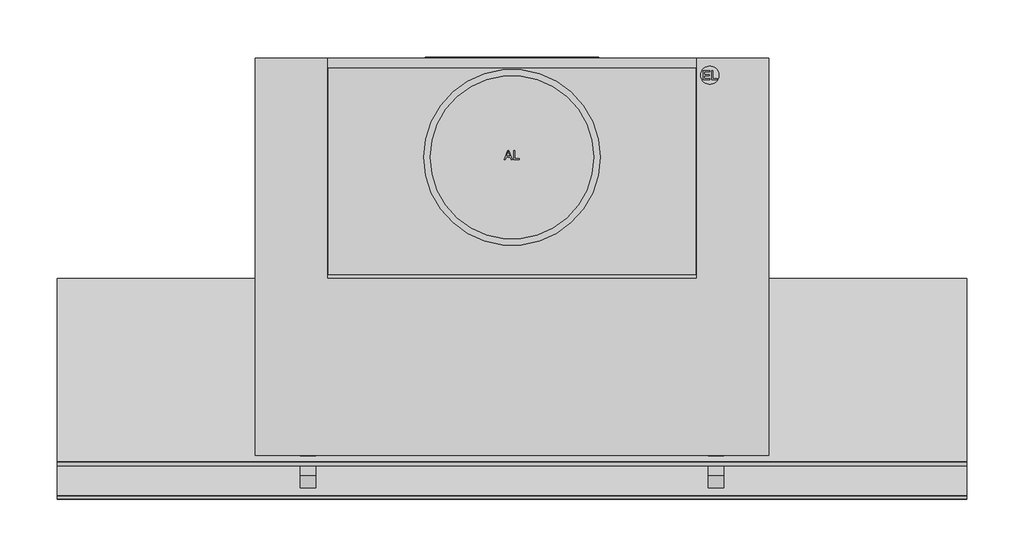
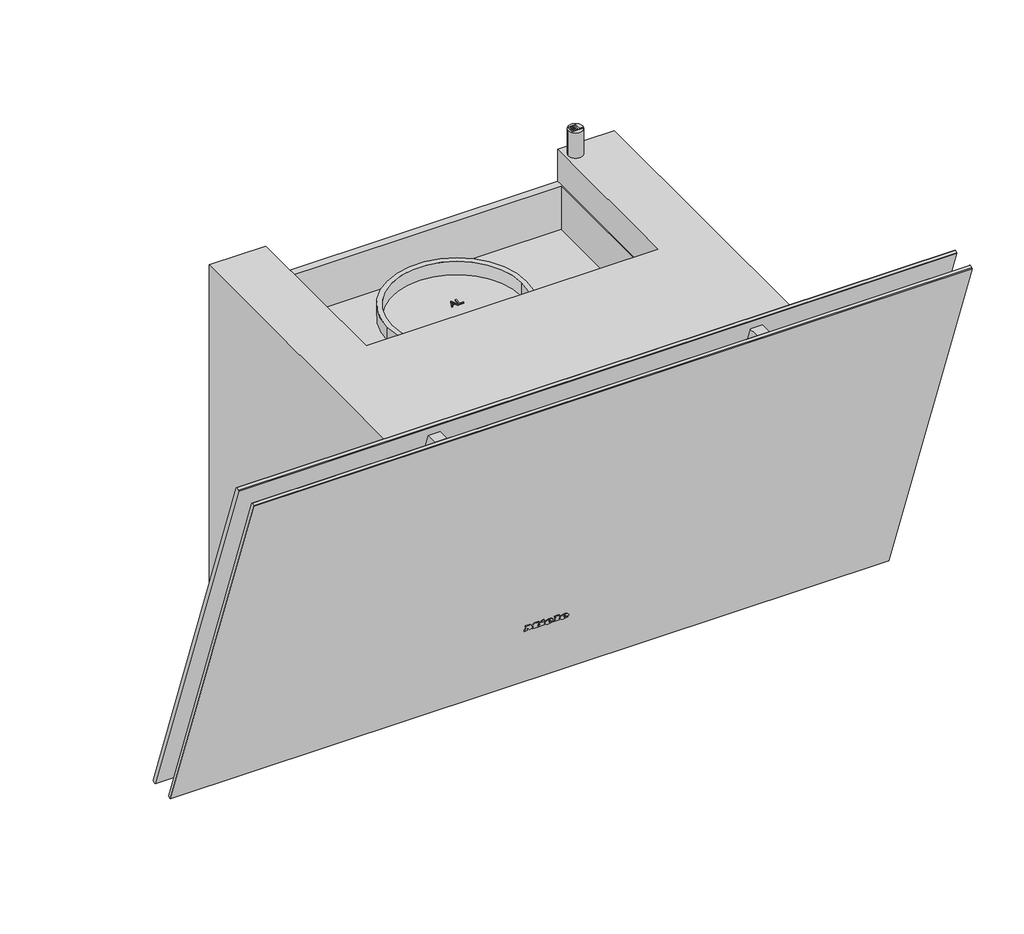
# Not in any storey: 1 proxy.
"""IFC4 building model written with IfcOpenShell, lengths in millimetres."""

import ifcopenshell
import ifcopenshell.guid

model = None  # the IFC model being written
_history = None  # IfcOwnerHistory: only IFC2X3 demands one
_inside = {}  # id of a spatial element -> (the spatial element, [elements in it])
_under = {}  # id of a project, library or spatial element -> (it, [spatial elements below it])
_declared = {}  # id of a project -> (the project, [libraries it declares])
_typed = {}  # id of a type object -> (the type object, [elements of that type])
_made_of = {}  # id of a material, layer set ... -> (it, [elements and type objects made of it])


def new_model(schema):
    """Start an empty IFC model of exactly this schema.

    Asked for "IFC4X3", IfcOpenShell would pick the latest addendum, in which some entities
    have other attributes; the version numbers below select the first issue.
    IFC2X3 requires an IfcOwnerHistory on every rooted entity: one is made here for all.
    """
    global model, _history
    if schema == "IFC4X3":
        model = ifcopenshell.file(schema_version=(4, 3, 0, 0))
    else:
        model = ifcopenshell.file(schema=schema)
    _inside.clear()
    _under.clear()
    _declared.clear()
    _typed.clear()
    _made_of.clear()
    _history = None
    if model.schema == "IFC2X3":
        org = make("IfcOrganization", Name="unknown")
        user = make(
            "IfcPersonAndOrganization",
            ThePerson=make("IfcPerson", FamilyName="unknown"),
            TheOrganization=org,
        )
        app = make(
            "IfcApplication",
            ApplicationDeveloper=org,
            Version="unknown",
            ApplicationFullName="unknown",
            ApplicationIdentifier="unknown",
        )
        _history = make(
            "IfcOwnerHistory",
            OwningUser=user,
            OwningApplication=app,
            ChangeAction="ADDED",
            CreationDate=0,
        )
    return model


def make(cls, **values):
    """One entity of the class cls with the attributes given. An attribute that is None is left unset."""
    return model.create_entity(
        cls, **{name: value for name, value in values.items() if value is not None}
    )


def rooted(cls, **values):
    """An entity with a GlobalId (a new one), such as an element, a storey or a relation."""
    return make(cls, GlobalId=ifcopenshell.guid.new(), OwnerHistory=_history, **values)


def si_unit(unit_type, name, prefix=None):
    """IfcSIUnit, for example si_unit("LENGTHUNIT", "METRE", prefix="MILLI")."""
    return make("IfcSIUnit", UnitType=unit_type, Prefix=prefix, Name=name)


def assignment(units):
    """IfcUnitAssignment: the units of a project."""
    return None if units is None else make("IfcUnitAssignment", Units=units)


def point(xyz):
    """IfcCartesianPoint."""
    return None if xyz is None else make("IfcCartesianPoint", Coordinates=xyz)


def direction(xyz):
    """IfcDirection."""
    return None if xyz is None else make("IfcDirection", DirectionRatios=xyz)


def frame(location, z_axis=None, x_axis=None):
    """IfcAxis2Placement3D, a coordinate frame: its origin and axes. An axis left out is left unset."""
    return make(
        "IfcAxis2Placement3D",
        Location=point(location),
        Axis=direction(z_axis),
        RefDirection=direction(x_axis),
    )


def frame_2d(location, x_axis=None):
    """IfcAxis2Placement2D, a coordinate frame in the plane: its origin and x axis."""
    return make(
        "IfcAxis2Placement2D", Location=point(location), RefDirection=direction(x_axis)
    )


def origin():
    """The frame at (0, 0, 0) with its axes left unset."""
    return frame((0.0, 0.0, 0.0))


def origin_with_axes():
    """The frame at (0, 0, 0) with the z axis (0, 0, 1) and the x axis (1, 0, 0) written out."""
    return frame((0.0, 0.0, 0.0), z_axis=(0.0, 0.0, 1.0), x_axis=(1.0, 0.0, 0.0))


def place(relative_to, where):
    """IfcLocalPlacement: puts the frame where relative to a parent placement (None: the world)."""
    return make(
        "IfcLocalPlacement", PlacementRelTo=relative_to, RelativePlacement=where
    )


def context(
    kind, dimensions, precision=None, world=None, true_north=None, identifier=None
):
    """IfcGeometricRepresentationContext, for example the 3D "Model" context."""
    return make(
        "IfcGeometricRepresentationContext",
        ContextIdentifier=identifier,
        ContextType=kind,
        CoordinateSpaceDimension=dimensions,
        Precision=precision,
        WorldCoordinateSystem=world,
        TrueNorth=true_north,
    )


def project(units=None, contexts=None):
    """IfcProject with its units and contexts."""
    return rooted(
        "IfcProject",
        Name="project",
        RepresentationContexts=contexts,
        UnitsInContext=assignment(units),
    )


def spatial(cls, under=None, at=None, **own):
    """A site, building, storey or space (cls), placed at a placement, below another one or the project."""
    s = rooted(cls, ObjectPlacement=at, **own)
    if under is not None:
        _under.setdefault(under.id(), (under, []))[1].append(s)
    return s


def polyline(points):
    """IfcPolyline through the points."""
    return make("IfcPolyline", Points=[point(p) for p in points])


def circle_curve(where, radius):
    """IfcCircle in the frame where."""
    return make("IfcCircle", Position=where, Radius=radius)


def ellipse_curve(where, semi_axis1, semi_axis2):
    """IfcEllipse in the frame where."""
    return make(
        "IfcEllipse", Position=where, SemiAxis1=semi_axis1, SemiAxis2=semi_axis2
    )


def trimmed(basis, trim1, trim2, sense, master):
    """IfcTrimmedCurve: the piece of a basis curve between two trims."""
    return make(
        "IfcTrimmedCurve",
        BasisCurve=basis,
        Trim1=trim1,
        Trim2=trim2,
        SenseAgreement=sense,
        MasterRepresentation=master,
    )


def segment(curve, same_sense, transition):
    """IfcCompositeCurveSegment."""
    return make(
        "IfcCompositeCurveSegment",
        Transition=transition,
        SameSense=same_sense,
        ParentCurve=curve,
    )


def composite_curve(segments, self_intersect=None):
    """IfcCompositeCurve: segments joined end to end."""
    return make("IfcCompositeCurve", Segments=segments, SelfIntersect=self_intersect)


def outline(outer, holes=None, kind="AREA"):
    """IfcArbitraryClosedProfileDef: a profile drawn as a closed curve; with holes, ...WithVoids."""
    if holes is None:
        return make("IfcArbitraryClosedProfileDef", ProfileType=kind, OuterCurve=outer)
    return make(
        "IfcArbitraryProfileDefWithVoids",
        ProfileType=kind,
        OuterCurve=outer,
        InnerCurves=holes,
    )


def extrude(swept, where, along, depth):
    """IfcExtrudedAreaSolid: the profile swept, set in the frame where, extruded along a direction by depth."""
    return make(
        "IfcExtrudedAreaSolid",
        SweptArea=swept,
        Position=where,
        ExtrudedDirection=direction(along),
        Depth=depth,
    )


def faces_of(points, faces, orient=None, outer=None):
    """IfcFace entities. A face is a list of loops; a loop is a list of indices into points, from 0.

    orient and outer hold one flag for each loop. By default every Orientation is true, the
    first loop of a face is its IfcFaceOuterBound and the others are IfcFaceBound.
    """
    made = []
    for i, loops in enumerate(faces):
        bounds = []
        for j, loop in enumerate(loops):
            is_outer = j == 0 if outer is None else outer[i][j]
            bounds.append(
                make(
                    "IfcFaceOuterBound" if is_outer else "IfcFaceBound",
                    Bound=make("IfcPolyLoop", Polygon=[points[k] for k in loop]),
                    Orientation=True if orient is None else orient[i][j],
                )
            )
        made.append(make("IfcFace", Bounds=bounds))
    return made


def faceted_brep(points, faces, orient=None, outer=None, voids=None):
    """IfcFacetedBrep: a solid bounded by flat faces; with voids (closed shells), ...WithVoids."""
    shared = [point(p) for p in points]
    hull = make("IfcClosedShell", CfsFaces=faces_of(shared, faces, orient, outer))
    if voids is None:
        return make("IfcFacetedBrep", Outer=hull)
    return make(
        "IfcFacetedBrepWithVoids",
        Outer=hull,
        Voids=[
            make(cls, CfsFaces=faces_of(shared, fs, o, b)) for cls, fs, o, b in voids
        ],
    )


def shape(context_of_items, identifier, shape_type, items):
    """IfcShapeRepresentation: the items that make up one representation, for example the "Body"."""
    return make(
        "IfcShapeRepresentation",
        ContextOfItems=context_of_items,
        RepresentationIdentifier=identifier,
        RepresentationType=shape_type,
        Items=items,
    )


def source(mapping_origin, context_of_items, identifier, shape_type, items):
    """IfcRepresentationMap: a shape defined once, which mapped items show again and again."""
    return make(
        "IfcRepresentationMap",
        MappingOrigin=mapping_origin,
        MappedRepresentation=shape(context_of_items, identifier, shape_type, items),
    )


def transform(
    local_origin,
    x_axis=None,
    y_axis=None,
    z_axis=None,
    scale=None,
    scale2=None,
    scale3=None,
    uniform=True,
):
    """IfcCartesianTransformationOperator3D, or its non-uniform kind. x_axis, y_axis, z_axis: its Axis1, 2, 3."""
    if uniform:
        return make(
            "IfcCartesianTransformationOperator3D",
            Axis1=direction(x_axis),
            Axis2=direction(y_axis),
            LocalOrigin=point(local_origin),
            Scale=scale,
            Axis3=direction(z_axis),
        )
    return make(
        "IfcCartesianTransformationOperator3DnonUniform",
        Axis1=direction(x_axis),
        Axis2=direction(y_axis),
        LocalOrigin=point(local_origin),
        Scale=scale,
        Axis3=direction(z_axis),
        Scale2=scale2,
        Scale3=scale3,
    )


def mapped(mapping_source, mapping_target):
    """IfcMappedItem: shows the shape of a source again, moved by a transform."""
    return make(
        "IfcMappedItem", MappingSource=mapping_source, MappingTarget=mapping_target
    )


def made_of(thing, what):
    """Note that an element or type object is made of a material, layer set ...; save() writes the relation."""
    if what is not None:
        _made_of.setdefault(what.id(), (what, []))[1].append(thing)
    return thing


def element(
    cls,
    number,
    at=None,
    inside=None,
    cuts=None,
    type_object=None,
    material=None,
    context=None,
    identifier="Body",
    shape_type=None,
    held_by="IfcProductDefinitionShape",
    body=None,
    shapes=None,
    **own,
):
    """One element of the class cls, such as IfcWall. Its Tag is "e" and its number.

    at: its placement. inside: the storey or other place that contains it. cuts: it is an
    opening in that element (IfcRelVoidsElement). A single representation is given by context,
    identifier, shape_type and body (its items); several are given by shapes. held_by: the class
    of the entity that holds the representations. save() writes the other relations.
    """
    e = rooted(cls, Tag="e%d" % number, ObjectPlacement=at, **own)
    if body is not None:
        shapes = [shape(context, identifier, shape_type, body)]
    if shapes is not None:
        e.Representation = make(held_by, Representations=shapes)
    if inside is not None:
        _inside.setdefault(inside.id(), (inside, []))[1].append(e)
    if cuts is not None:
        rooted(
            "IfcRelVoidsElement", RelatingBuildingElement=cuts, RelatedOpeningElement=e
        )
    if type_object is not None:
        _typed.setdefault(type_object.id(), (type_object, []))[1].append(e)
    return made_of(e, material)


def aggregate(whole, parts):
    """IfcRelAggregates: a whole, such as a stair, and the parts it consists of."""
    return rooted("IfcRelAggregates", RelatingObject=whole, RelatedObjects=parts)


def save(model, path):
    """Write the relations noted so far, then the file.

    IfcRelAggregates (storeys below a building ...), IfcRelContainedInSpatialStructure (elements
    in a storey), IfcRelDefinesByType, IfcRelAssociatesMaterial and IfcRelDeclares: one each for
    every whole, place, type object, material and project.
    """
    for whole, parts in _under.values():
        aggregate(whole, parts)
    for where, things in _inside.values():
        rooted(
            "IfcRelContainedInSpatialStructure",
            RelatedElements=things,
            RelatingStructure=where,
        )
    for kind, things in _typed.values():
        rooted("IfcRelDefinesByType", RelatedObjects=things, RelatingType=kind)
    for what, things in _made_of.values():
        rooted("IfcRelAssociatesMaterial", RelatedObjects=things, RelatingMaterial=what)
    for by, libraries in _declared.values():
        rooted("IfcRelDeclares", RelatingContext=by, RelatedDefinitions=libraries)
    model.write(path)


def plane_surface(at):
    """IfcPlane: the flat surface through the origin of the frame at, square to its z axis."""
    return make("IfcPlane", Position=at)


def cylinder_surface(at, radius):
    """IfcCylindricalSurface: all points at the distance radius from the z axis of the frame at."""
    return make("IfcCylindricalSurface", Position=at, Radius=radius)


def revolved_surface(curve, axis_point, axis_direction):
    """IfcSurfaceOfRevolution: the curve turned about the line through axis_point along axis_direction."""
    return make(
        "IfcSurfaceOfRevolution",
        SweptCurve=make("IfcArbitraryOpenProfileDef", ProfileType="CURVE", Curve=curve),
        AxisPosition=make("IfcAxis1Placement", Location=point(axis_point), Axis=direction(axis_direction)),
    )


def extruded_surface(curve, direction_of_extrusion, depth):
    """IfcSurfaceOfLinearExtrusion: the curve pushed along a direction by depth."""
    return make(
        "IfcSurfaceOfLinearExtrusion",
        SweptCurve=make("IfcArbitraryOpenProfileDef", ProfileType="CURVE", Curve=curve),
        ExtrudedDirection=direction(direction_of_extrusion),
        Depth=depth,
    )


def advanced_brep(points, edges, surfaces, faces):
    """IfcAdvancedBrep: a solid bounded by faces that lie on surfaces and meet in shared edges.

    An edge is (start, end): straight between two places in points (the first is 0);
    or (start, end, curve); or (start, end, curve, False) where it runs against its curve.
    A face is (place in surfaces, loops), or (place, loops, False) where it looks against
    its surface's normal. A loop lists edges by number (the first is 1), with a minus sign
    where the edge is run from its end to its start. The first loop is the outer one.
    """
    corners = [point(p) for p in points]
    vertices = [make("IfcVertexPoint", VertexGeometry=c) for c in corners]
    made = []
    for start, end, *more in edges:
        made.append(
            make(
                "IfcEdgeCurve",
                EdgeStart=vertices[start],
                EdgeEnd=vertices[end],
                EdgeGeometry=more[0] if more else make("IfcPolyline", Points=[corners[start], corners[end]]),
                SameSense=more[1] if len(more) > 1 else True,
            )
        )
    hull = []
    for where, loops, *sense in faces:
        bounds = []
        for j, loop in enumerate(loops):
            ring = [make("IfcOrientedEdge", EdgeElement=made[abs(k) - 1], Orientation=k > 0) for k in loop]
            bounds.append(
                make(
                    "IfcFaceOuterBound" if j == 0 else "IfcFaceBound",
                    Bound=make("IfcEdgeLoop", EdgeList=ring),
                    Orientation=True,
                )
            )
        hull.append(make("IfcAdvancedFace", Bounds=bounds, FaceSurface=surfaces[where], SameSense=sense[0] if sense else True))
    return make("IfcAdvancedBrep", Outer=make("IfcClosedShell", CfsFaces=hull))


def specialty_equipment_5b4391ac(model_context):
    return source(origin(), model_context, "Body", "SolidModel", [
        extrude(outline(polyline([(0.0, 0.0), (0.968, 0.0), (0.968, 5.352), (0.0, 5.352), (0.0, 6.696), (3.52, 6.696), (3.52, 5.352), (2.56, 5.352), (2.56, 1.9488753), (6.136, 6.696), (9.728, 1.8807777), (9.728, 5.352), (8.744, 5.352), (8.744, 6.696), (15.128, 6.696), (15.128, 5.352), (14.112, 5.352), (14.112, 0.0), (15.128, 0.0), (15.128, -1.304), (10.256, -1.304), (7.92, 1.696), (5.576, -1.304), (0.0, -1.304), (0.0, 0.0)])), frame((-24.271984, -261.1380975, 82.2921818), z_axis=(0.0, 0.9396926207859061, 0.34202014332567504), x_axis=(1.0, 0.0, 0.0)), (0.0, 0.0, 1.0), 1.0),
        extrude(outline(polyline([(0.0, 0.0), (0.96, 0.0), (0.96, 5.352), (0.0, 5.352), (0.0, 6.696), (6.488, 6.696), (6.488, 5.352), (5.504, 5.352), (5.504, -1.304), (0.0, -1.304), (0.0, 0.0)])), frame((8.192016, -261.1380975, 82.2921818), z_axis=(0.0, 0.9396926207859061, 0.34202014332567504), x_axis=(1.0, 0.0, 0.0)), (0.0, 0.0, 1.0), 1.0),
        extrude(outline(polyline([(0.0, 0.0), (1.4315306, 0.0), (1.4390414, -2.9920869), (0.0109086, -2.9993294), (0.0, 0.0)])), frame((-6.351984, -261.4226582, 83.074006), z_axis=(0.0, 0.9396926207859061, 0.342020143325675), x_axis=(0.42472021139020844, 0.30963927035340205, -0.8507269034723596)), (0.0, 0.0, 1.0), 1.0),
        extrude(outline(polyline([(0.4933907, 2.4141097), (1.7898156, 3.022309), (2.1941493, 2.1604399), (5.1636141, 3.5535222), (4.7592805, 4.4153913), (5.9760369, 4.9862153), (8.6568708, -0.728194), (7.4401145, -1.299018), (7.0459741, -0.4588767), (2.7800843, -2.4601583), (0.4933907, 2.4141097)])), frame((-6.351984, -261.4226582, 83.074006), z_axis=(0.0, 0.9396926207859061, 0.342020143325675), x_axis=(0.42472021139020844, 0.30963927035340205, -0.8507269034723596)), (0.0, 0.0, 1.0), 1.0),
        advanced_brep(
        [(2.392016, -259.4964008, 77.7816572), (2.392016, -259.7727531, 78.5409288), (7.744016, -259.7727531, 78.5409288), (-1.567984, -259.7727531, 78.5409288), (0.632016, -258.8479306, 76.0), (7.608016, -259.4964008, 77.7816572), (5.192016, -259.4964008, 77.7816572), (3.288016, -259.1899507, 76.9396926), (2.392016, -260.1229817, 79.5031741), (2.392016, -260.4212233, 80.3225861), (3.760016, -260.4212233, 80.3225861), (3.760016, -260.1229817, 79.5031741), (2.392016, -258.5567082, 78.1236774), (3.288016, -258.2502581, 77.2817128), (5.192016, -258.5567082, 78.1236774), (7.608016, -258.5567082, 78.1236774), (0.632016, -257.908238, 76.3420201), (-1.567984, -258.8330604, 78.882949), (7.744016, -258.8330604, 78.882949), (2.392016, -258.8330604, 78.882949), (2.392016, -259.1832891, 79.8451942), (3.760016, -259.1832891, 79.8451942), (3.760016, -259.4815306, 80.6646062), (2.392016, -259.4815306, 80.6646062)],
        [
            (0, 1),
            (1, 2),
            (2, 3, ellipse_curve(frame((3.088016, -259.7727531, 78.5409288), z_axis=(0.0, -0.9396926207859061, -0.34202014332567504), x_axis=(-1.0, 0.0, 0.0)), 4.656, 3.848)),
            (3, 4, circle_curve(frame((1.5280596, -259.8657825, 78.7965252), z_axis=(0.0, -0.9396926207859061, -0.34202014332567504), x_axis=(0.0, 0.34202014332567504, -0.9396926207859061)), 3.1079688)),
            (4, 5, circle_curve(frame((2.9948096, -260.5881291, 80.7811561), z_axis=(0.0, -0.9396926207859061, -0.34202014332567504), x_axis=(0.0, 0.34202014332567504, -0.9396926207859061)), 5.6098607)),
            (5, 6),
            (6, 7, circle_curve(frame((3.6790748, -259.7508638, 78.4807885), z_axis=(0.0, 0.9396926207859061, 0.34202014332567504), x_axis=(0.0, 0.34202014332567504, -0.9396926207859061)), 1.6859795)),
            (7, 0, circle_curve(frame((3.288016, -259.4964008, 77.7816572), z_axis=(0.0, 0.9396926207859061, 0.34202014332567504), x_axis=(0.0, 0.34202014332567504, -0.9396926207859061)), 0.896)),
            (8, 9),
            (9, 10, circle_curve(frame((3.076016, -260.4212233, 80.3225861), z_axis=(0.0, 0.9396926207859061, 0.34202014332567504), x_axis=(0.0, 0.34202014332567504, -0.9396926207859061)), 0.684)),
            (10, 11),
            (11, 8),
            (12, 13, circle_curve(frame((3.288016, -258.5567082, 78.1236774), z_axis=(0.0, -0.9396926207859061, -0.34202014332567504), x_axis=(0.0, 0.34202014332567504, -0.9396926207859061)), 0.896)),
            (13, 14, circle_curve(frame((3.6790748, -258.8111712, 78.8228087), z_axis=(0.0, -0.9396926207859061, -0.34202014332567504), x_axis=(0.0, 0.34202014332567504, -0.9396926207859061)), 1.6859795)),
            (14, 15),
            (15, 16, circle_curve(frame((2.9948096, -259.6484365, 81.1231762), z_axis=(0.0, 0.9396926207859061, 0.34202014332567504), x_axis=(0.0, 0.34202014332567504, -0.9396926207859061)), 5.6098607)),
            (16, 17, circle_curve(frame((1.5280596, -258.9260899, 79.1385454), z_axis=(0.0, 0.9396926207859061, 0.34202014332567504), x_axis=(0.0, 0.34202014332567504, -0.9396926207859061)), 3.1079688)),
            (17, 18, ellipse_curve(frame((3.088016, -258.8330604, 78.882949), z_axis=(0.0, 0.9396926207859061, 0.34202014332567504), x_axis=(-1.0, 0.0, 0.0)), 4.656, 3.848)),
            (18, 19),
            (19, 12),
            (20, 21),
            (21, 22),
            (22, 23, circle_curve(frame((3.076016, -259.4815306, 80.6646062), z_axis=(0.0, -0.9396926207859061, -0.34202014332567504), x_axis=(0.0, 0.34202014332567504, -0.9396926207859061)), 0.684)),
            (23, 20),
            (0, 12),
            (19, 1),
            (18, 2),
            (5, 15),
            (14, 6),
            (17, 3),
            (13, 7),
            (16, 4),
            (8, 20),
            (23, 9),
            (22, 10),
            (21, 11),
        ],
        [
            plane_surface(frame((2.392016, -259.7727531, 78.5409288), z_axis=(0.0, -0.9396926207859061, -0.34202014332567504), x_axis=(0.0, -0.34202014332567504, 0.9396926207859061))),
            plane_surface(frame((2.392016, -258.8330604, 78.882949), z_axis=(0.0, 0.9396926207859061, 0.34202014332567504), x_axis=(0.0, 0.34202014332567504, -0.9396926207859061))),
            plane_surface(frame((2.392016, -259.4964008, 77.7816572), z_axis=(1.0, 0.0, 0.0), x_axis=(0.0, 0.9396926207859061, 0.34202014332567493))),
            plane_surface(frame((2.392016, -259.7727531, 78.5409288), z_axis=(0.0, 0.34202014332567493, -0.9396926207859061), x_axis=(0.0, 0.9396926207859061, 0.34202014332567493))),
            plane_surface(frame((7.608016, -259.4964008, 77.7816572), z_axis=(0.0, -0.34202014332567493, 0.9396926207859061), x_axis=(0.0, 0.9396926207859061, 0.34202014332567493))),
            extruded_surface(trimmed(ellipse_curve(frame((3.088016, -257.8933678, 79.2249691), z_axis=(0.0, -0.9396926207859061, -0.34202014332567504), x_axis=(-1.0, 0.0, 0.0)), 4.656, 3.848), [point((7.744016, -257.8933678, 79.2249691))], [point((-1.567984, -257.8933678, 79.2249691))], True, "CARTESIAN"), (0.0, -0.9396926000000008, -0.34202009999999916), 0.9999999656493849),
            revolved_surface(polyline([(3.6790748, -258.2345321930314, 77.23850622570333), (3.6790748, -259.1742248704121, 76.89648606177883)]), (3.6790748, -258.8111712, 78.8228087), (0.0, 0.9396926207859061, 0.34202014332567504)),
            revolved_surface(polyline([(3.288016, -258.25025810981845, 77.28171282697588), (3.288016, -259.1899507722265, 76.93969266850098)]), (3.288016, -258.5567082, 78.1236774), (0.0, 0.9396926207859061, 0.34202014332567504)),
            cylinder_surface(frame((1.5280596, -258.9260899, 79.1385454), z_axis=(0.0, -0.9396926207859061, -0.34202014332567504), x_axis=(0.0, 0.34202014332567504, -0.9396926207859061)), 3.1079688),
            cylinder_surface(frame((2.9948096, -259.6484365, 81.1231762), z_axis=(0.0, -0.9396926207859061, -0.34202014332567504), x_axis=(0.0, 0.34202014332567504, -0.9396926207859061)), 5.6098607),
            plane_surface(frame((2.392016, -260.1229817, 79.5031741), z_axis=(1.0, 0.0, 0.0), x_axis=(0.0, 0.9396926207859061, 0.34202014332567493))),
            revolved_surface(polyline([(3.076016, -259.2475888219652, 80.02185644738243), (3.076016, -260.1872814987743, 79.67983628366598)]), (3.076016, -259.4815306, 80.6646062), (0.0, 0.9396926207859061, 0.34202014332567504)),
            plane_surface(frame((3.760016, -260.4212233, 80.3225861), z_axis=(-1.0, 0.0, 0.0), x_axis=(0.0, 0.9396926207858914, 0.3420201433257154))),
            plane_surface(frame((3.760016, -260.1229817, 79.5031741), z_axis=(0.0, -0.34202014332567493, 0.9396926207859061), x_axis=(0.0, 0.9396926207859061, 0.34202014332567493))),
        ],
        [
            (0, [[1, 2, 3, 4, 5, 6, 7, 8], [9, 10, 11, 12]]),
            (1, [[13, 14, 15, 16, 17, 18, 19, 20], [21, 22, 23, 24]]),
            (2, [[-1, 25, -20, 26]]),
            (3, [[-2, -26, -19, 27]]),
            (4, [[-6, 28, -15, 29]]),
            (5, [[-3, -27, -18, 30]]),
            (6, [[-7, -29, -14, 31]]),
            (7, [[-8, -31, -13, -25]]),
            (8, [[-4, -30, -17, 32]]),
            (9, [[-5, -32, -16, -28]]),
            (10, [[-9, 33, -24, 34]]),
            (11, [[-10, -34, -23, 35]]),
            (12, [[-11, -35, -22, 36]]),
            (13, [[-12, -36, -21, -33]]),
        ],
    ),
        advanced_brep(
        [(19.088016, -259.4964008, 77.7816572), (19.088016, -259.7727531, 78.5409288), (24.440016, -259.7727531, 78.5409288), (15.128016, -259.7727531, 78.5409288), (17.328016, -258.8479306, 76.0), (24.304016, -259.4964008, 77.7816572), (21.888016, -259.4964008, 77.7816572), (19.984016, -259.1899507, 76.9396926), (19.088016, -260.1229817, 79.5031741), (19.088016, -260.4212233, 80.3225861), (20.456016, -260.4212233, 80.3225861), (20.456016, -260.1229817, 79.5031741), (19.088016, -258.5567082, 78.1236774), (19.984016, -258.2502581, 77.2817128), (21.888016, -258.5567082, 78.1236774), (24.304016, -258.5567082, 78.1236774), (17.328016, -257.908238, 76.3420201), (15.128016, -258.8330604, 78.882949), (24.440016, -258.8330604, 78.882949), (19.088016, -258.8330604, 78.882949), (19.088016, -259.1832891, 79.8451942), (20.456016, -259.1832891, 79.8451942), (20.456016, -259.4815306, 80.6646062), (19.088016, -259.4815306, 80.6646062)],
        [
            (0, 1),
            (1, 2),
            (2, 3, ellipse_curve(frame((19.784016, -259.7727531, 78.5409288), z_axis=(0.0, -0.9396926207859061, -0.34202014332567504), x_axis=(-1.0, 0.0, 0.0)), 4.656, 3.848)),
            (3, 4, circle_curve(frame((18.2240596, -259.8657825, 78.7965252), z_axis=(0.0, -0.9396926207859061, -0.34202014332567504), x_axis=(0.0, 0.34202014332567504, -0.9396926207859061)), 3.1079688)),
            (4, 5, circle_curve(frame((19.6908096, -260.5881291, 80.7811561), z_axis=(0.0, -0.9396926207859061, -0.34202014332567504), x_axis=(0.0, 0.34202014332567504, -0.9396926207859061)), 5.6098607)),
            (5, 6),
            (6, 7, circle_curve(frame((20.3750748, -259.7508638, 78.4807885), z_axis=(0.0, 0.9396926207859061, 0.34202014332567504), x_axis=(0.0, 0.34202014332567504, -0.9396926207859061)), 1.6859795)),
            (7, 0, circle_curve(frame((19.984016, -259.4964008, 77.7816572), z_axis=(0.0, 0.9396926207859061, 0.34202014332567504), x_axis=(0.0, 0.34202014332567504, -0.9396926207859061)), 0.896)),
            (8, 9),
            (9, 10, circle_curve(frame((19.772016, -260.4212233, 80.3225861), z_axis=(0.0, 0.9396926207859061, 0.34202014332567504), x_axis=(0.0, 0.34202014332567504, -0.9396926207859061)), 0.684)),
            (10, 11),
            (11, 8),
            (12, 13, circle_curve(frame((19.984016, -258.5567082, 78.1236774), z_axis=(0.0, -0.9396926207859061, -0.34202014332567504), x_axis=(0.0, 0.34202014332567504, -0.9396926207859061)), 0.896)),
            (13, 14, circle_curve(frame((20.3750748, -258.8111712, 78.8228087), z_axis=(0.0, -0.9396926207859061, -0.34202014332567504), x_axis=(0.0, 0.34202014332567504, -0.9396926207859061)), 1.6859795)),
            (14, 15),
            (15, 16, circle_curve(frame((19.6908096, -259.6484365, 81.1231762), z_axis=(0.0, 0.9396926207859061, 0.34202014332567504), x_axis=(0.0, 0.34202014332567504, -0.9396926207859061)), 5.6098607)),
            (16, 17, circle_curve(frame((18.2240596, -258.9260899, 79.1385454), z_axis=(0.0, 0.9396926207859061, 0.34202014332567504), x_axis=(0.0, 0.34202014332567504, -0.9396926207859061)), 3.1079688)),
            (17, 18, ellipse_curve(frame((19.784016, -258.8330604, 78.882949), z_axis=(0.0, 0.9396926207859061, 0.34202014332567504), x_axis=(-1.0, 0.0, 0.0)), 4.656, 3.848)),
            (18, 19),
            (19, 12),
            (20, 21),
            (21, 22),
            (22, 23, circle_curve(frame((19.772016, -259.4815306, 80.6646062), z_axis=(0.0, -0.9396926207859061, -0.34202014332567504), x_axis=(0.0, 0.34202014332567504, -0.9396926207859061)), 0.684)),
            (23, 20),
            (0, 12),
            (19, 1),
            (18, 2),
            (5, 15),
            (14, 6),
            (17, 3),
            (13, 7),
            (16, 4),
            (8, 20),
            (23, 9),
            (22, 10),
            (21, 11),
        ],
        [
            plane_surface(frame((19.088016, -259.7727531, 78.5409288), z_axis=(0.0, -0.9396926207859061, -0.34202014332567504), x_axis=(0.0, -0.34202014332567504, 0.9396926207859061))),
            plane_surface(frame((19.088016, -258.8330604, 78.882949), z_axis=(0.0, 0.9396926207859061, 0.34202014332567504), x_axis=(0.0, 0.34202014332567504, -0.9396926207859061))),
            plane_surface(frame((19.088016, -259.4964008, 77.7816572), z_axis=(1.0, 0.0, 0.0), x_axis=(0.0, 0.9396926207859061, 0.34202014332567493))),
            plane_surface(frame((19.088016, -259.7727531, 78.5409288), z_axis=(0.0, 0.34202014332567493, -0.9396926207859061), x_axis=(0.0, 0.9396926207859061, 0.34202014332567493))),
            plane_surface(frame((24.304016, -259.4964008, 77.7816572), z_axis=(0.0, -0.34202014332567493, 0.9396926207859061), x_axis=(0.0, 0.9396926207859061, 0.34202014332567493))),
            extruded_surface(trimmed(ellipse_curve(frame((19.784016, -257.8933678, 79.2249691), z_axis=(0.0, -0.9396926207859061, -0.34202014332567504), x_axis=(-1.0, 0.0, 0.0)), 4.656, 3.848), [point((24.440016, -257.8933678, 79.2249691))], [point((15.128016, -257.8933678, 79.2249691))], True, "CARTESIAN"), (0.0, -0.9396926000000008, -0.34202009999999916), 0.9999999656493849),
            revolved_surface(polyline([(20.3750748, -258.2345321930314, 77.23850622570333), (20.3750748, -259.1742248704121, 76.89648606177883)]), (20.3750748, -258.8111712, 78.8228087), (0.0, 0.9396926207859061, 0.34202014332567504)),
            revolved_surface(polyline([(19.984016, -258.25025810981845, 77.28171282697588), (19.984016, -259.1899507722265, 76.93969266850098)]), (19.984016, -258.5567082, 78.1236774), (0.0, 0.9396926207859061, 0.34202014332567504)),
            cylinder_surface(frame((18.2240596, -258.9260899, 79.1385454), z_axis=(0.0, -0.9396926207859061, -0.34202014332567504), x_axis=(0.0, 0.34202014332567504, -0.9396926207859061)), 3.1079688),
            cylinder_surface(frame((19.6908096, -259.6484365, 81.1231762), z_axis=(0.0, -0.9396926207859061, -0.34202014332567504), x_axis=(0.0, 0.34202014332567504, -0.9396926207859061)), 5.6098607),
            plane_surface(frame((19.088016, -260.1229817, 79.5031741), z_axis=(1.0, 0.0, 0.0), x_axis=(0.0, 0.9396926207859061, 0.34202014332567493))),
            revolved_surface(polyline([(19.772016, -259.2475888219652, 80.02185644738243), (19.772016, -260.1872814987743, 79.67983628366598)]), (19.772016, -259.4815306, 80.6646062), (0.0, 0.9396926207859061, 0.34202014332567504)),
            plane_surface(frame((20.456016, -260.4212233, 80.3225861), z_axis=(-1.0, 0.0, 0.0), x_axis=(0.0, 0.9396926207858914, 0.3420201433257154))),
            plane_surface(frame((20.456016, -260.1229817, 79.5031741), z_axis=(0.0, -0.34202014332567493, 0.9396926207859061), x_axis=(0.0, 0.9396926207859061, 0.34202014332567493))),
        ],
        [
            (0, [[1, 2, 3, 4, 5, 6, 7, 8], [9, 10, 11, 12]]),
            (1, [[13, 14, 15, 16, 17, 18, 19, 20], [21, 22, 23, 24]]),
            (2, [[-1, 25, -20, 26]]),
            (3, [[-2, -26, -19, 27]]),
            (4, [[-6, 28, -15, 29]]),
            (5, [[-3, -27, -18, 30]]),
            (6, [[-7, -29, -14, 31]]),
            (7, [[-8, -31, -13, -25]]),
            (8, [[-4, -30, -17, 32]]),
            (9, [[-5, -32, -16, -28]]),
            (10, [[-9, 33, -24, 34]]),
            (11, [[-10, -34, -23, 35]]),
            (12, [[-11, -35, -22, 36]]),
            (13, [[-12, -36, -21, -33]]),
        ],
    ),
        advanced_brep(
        [(-198.5, -225.9485265, 82.132138), (-198.5, -235.8911369, 109.4492355), (-198.5, -230.9198317, 95.7906867), (-198.5, -231.2422284, 80.5173231), (-198.5, -240.9843308, 107.2835295), (-198.5, -250.514978, 76.8365225), (-198.5, -258.1140866, 97.7149017), (-198.5, -251.4164577, 77.3487429), (-198.5, -258.4754112, 96.7430581), (-198.5, -254.9459345, 87.0459005)],
        [
            (0, 1, circle_curve(frame((-198.5, -230.9198317, 95.7906867), z_axis=(0.0, 0.9396926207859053, 0.3420201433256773), x_axis=(0.0, -0.3420201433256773, 0.9396926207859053)), 14.535124)),
            (1, 2),
            (2, 0),
            (1, 0, circle_curve(frame((-198.5, -230.9198317, 95.7906867), z_axis=(0.0, 0.9396926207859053, 0.3420201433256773), x_axis=(0.0, -0.3420201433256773, 0.9396926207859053)), 14.535124)),
            (3, 4, circle_curve(frame((-198.5, -236.1132796, 93.9004263), z_axis=(0.0, 0.9396926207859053, 0.3420201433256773), x_axis=(0.0, -0.3420201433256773, 0.9396926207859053)), 14.2420009)),
            (4, 1),
            (0, 3),
            (4, 3, circle_curve(frame((-198.5, -236.1132796, 93.9004263), z_axis=(0.0, 0.9396926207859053, 0.3420201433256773), x_axis=(0.0, -0.3420201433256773, 0.9396926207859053)), 14.2420009)),
            (5, 6, circle_curve(frame((-198.5, -254.3145323, 87.2757121), z_axis=(0.0, 0.9396926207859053, 0.3420201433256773), x_axis=(0.0, -0.3420201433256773, 0.9396926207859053)), 11.1091535)),
            (6, 4),
            (3, 5),
            (6, 5, circle_curve(frame((-198.5, -254.3145323, 87.2757121), z_axis=(0.0, 0.9396926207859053, 0.3420201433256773), x_axis=(0.0, -0.3420201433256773, 0.9396926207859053)), 11.1091535)),
            (7, 8, circle_curve(frame((-198.5, -254.9459345, 87.0459005), z_axis=(0.0, 0.9396926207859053, 0.3420201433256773), x_axis=(0.0, -0.3420201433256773, 0.9396926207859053)), 10.3194996)),
            (8, 6),
            (5, 7),
            (8, 7, circle_curve(frame((-198.5, -254.9459345, 87.0459005), z_axis=(0.0, 0.9396926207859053, 0.3420201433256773), x_axis=(0.0, -0.3420201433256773, 0.9396926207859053)), 10.3194996)),
            (9, 8),
            (7, 9),
        ],
        [
            plane_surface(frame((-198.5, -230.9198317, 95.7906867), z_axis=(0.0, 0.9396926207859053, 0.3420201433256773), x_axis=(0.0, -0.3420201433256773, 0.9396926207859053))),
            revolved_surface(polyline([(-198.5, -235.8312261, 109.4708926), (-198.5, -240.9843308, 107.2835295)]), (-198.5, -255.2773841, 86.9252627), (0.0, -0.9396926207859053, -0.3420201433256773)),
            revolved_surface(polyline([(-198.5, -240.9843308, 107.2835295), (-198.5, -258.1140866, 97.7149017)]), (-198.5, -255.2773841, 86.9252627), (0.0, -0.9396926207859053, -0.3420201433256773)),
            revolved_surface(polyline([(-198.5, -258.1140866, 97.7149017), (-198.5, -258.4754112, 96.7430581)]), (-198.5, -255.2773841, 86.9252627), (0.0, -0.9396926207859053, -0.3420201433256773)),
            plane_surface(frame((-198.5, -254.9459345, 87.0459005), z_axis=(0.0, -0.9396926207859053, -0.3420201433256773), x_axis=(0.0, -0.3420201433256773, 0.9396926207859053))),
        ],
        [
            (0, [[1, 2, 3]]),
            (0, [[4, -3, -2]]),
            (1, [[5, 6, -1, 7]]),
            (1, [[8, -7, -4, -6]]),
            (2, [[9, 10, -5, 11]]),
            (2, [[12, -11, -8, -10]]),
            (3, [[13, 14, -9, 15]]),
            (3, [[16, -15, -12, -14]]),
            (4, [[17, -13, 18]]),
            (4, [[-18, -16, -17]]),
        ],
    ),
        advanced_brep(
        [(-198.5, -249.4001153, 68.4387353), (-198.5, -262.8067778, 105.2732379), (-198.5, -257.0531232, 93.8737841), (-198.5, -252.3199878, 80.8696014), (-198.5, -250.699917, 68.232867), (-198.5, -263.9348133, 104.5954458), (-198.5, -257.3173652, 86.4141564), (-198.5, -254.6865555, 87.3716928)],
        [
            (0, 1, circle_curve(frame((-198.5, -256.1034466, 86.8559866), z_axis=(0.0, 0.9396926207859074, 0.34202014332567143), x_axis=(0.0, -0.34202014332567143, 0.9396926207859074)), 19.5992294)),
            (1, 2),
            (2, 3, circle_curve(frame((-198.5, -254.6865555, 87.3716928), z_axis=(0.0, -0.9396926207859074, -0.34202014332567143), x_axis=(0.0, -0.34202014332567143, 0.9396926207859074)), 6.9193811)),
            (3, 0),
            (1, 0, circle_curve(frame((-198.5, -256.1034466, 86.8559866), z_axis=(0.0, 0.9396926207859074, 0.34202014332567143), x_axis=(0.0, -0.34202014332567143, 0.9396926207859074)), 19.5992294)),
            (3, 2, circle_curve(frame((-198.5, -254.6865555, 87.3716928), z_axis=(0.0, -0.9396926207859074, -0.34202014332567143), x_axis=(0.0, -0.34202014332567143, 0.9396926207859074)), 6.9193811)),
            (4, 5, circle_curve(frame((-198.5, -257.3173652, 86.4141564), z_axis=(0.0, 0.9396926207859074, 0.34202014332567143), x_axis=(0.0, -0.34202014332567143, 0.9396926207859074)), 19.3481241)),
            (5, 1),
            (0, 4),
            (5, 4, circle_curve(frame((-198.5, -257.3173652, 86.4141564), z_axis=(0.0, 0.9396926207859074, 0.34202014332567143), x_axis=(0.0, -0.34202014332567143, 0.9396926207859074)), 19.3481241)),
            (6, 5),
            (4, 6),
            (2, 7),
            (7, 3),
        ],
        [
            revolved_surface(polyline([(-198.5, -257.0531232, 93.8737841), (-198.5, -262.8067778, 105.2732379)]), (-198.5, -254.6865555, 87.3716928), (0.0, -0.9396926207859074, -0.34202014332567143)),
            revolved_surface(polyline([(-198.5, -262.8067778, 105.2732379), (-198.5, -263.9348133, 104.5954458)]), (-198.5, -254.6865555, 87.3716928), (0.0, -0.9396926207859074, -0.34202014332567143)),
            plane_surface(frame((-198.5, -257.3173652, 86.4141564), z_axis=(0.0, -0.9396926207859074, -0.34202014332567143), x_axis=(0.0, -0.34202014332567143, 0.9396926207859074))),
            plane_surface(frame((-198.5, -254.6865555, 87.3716928), z_axis=(0.0, 0.9396926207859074, 0.34202014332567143), x_axis=(0.0, -0.34202014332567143, 0.9396926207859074))),
        ],
        [
            (0, [[1, 2, 3, 4]]),
            (0, [[5, -4, 6, -2]]),
            (1, [[7, 8, -1, 9]]),
            (1, [[10, -9, -5, -8]]),
            (2, [[11, -7, 12]]),
            (2, [[-12, -10, -11]]),
            (3, [[-3, 13, 14]]),
            (3, [[-6, -14, -13]]),
        ],
    ),
        advanced_brep(
        [(198.5, -230.9018417, 95.8650227), (198.5, -235.8509293, 109.4625291), (198.5, -225.9091808, 82.1477994), (198.5, -240.9843308, 107.2835295), (198.5, -231.2422284, 80.5173231), (198.5, -258.1140866, 97.7149017), (198.5, -250.514978, 76.8365225), (198.5, -258.4754112, 96.7430581), (198.5, -251.4164577, 77.3487429), (198.5, -254.9459345, 87.0459005)],
        [
            (0, 1),
            (1, 2, circle_curve(frame((198.5, -230.8800551, 95.8051643), z_axis=(0.0, 0.9396926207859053, 0.3420201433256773), x_axis=(0.0, -0.3420201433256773, 0.9396926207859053)), 14.5338641)),
            (2, 0),
            (2, 1, circle_curve(frame((198.5, -230.8800551, 95.8051643), z_axis=(0.0, 0.9396926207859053, 0.3420201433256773), x_axis=(0.0, -0.3420201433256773, 0.9396926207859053)), 14.5338641)),
            (1, 3),
            (3, 4, circle_curve(frame((198.5, -236.1132796, 93.9004263), z_axis=(0.0, 0.9396926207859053, 0.3420201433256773), x_axis=(0.0, -0.3420201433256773, 0.9396926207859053)), 14.2420009)),
            (4, 2),
            (4, 3, circle_curve(frame((198.5, -236.1132796, 93.9004263), z_axis=(0.0, 0.9396926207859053, 0.3420201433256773), x_axis=(0.0, -0.3420201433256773, 0.9396926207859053)), 14.2420009)),
            (3, 5),
            (5, 6, circle_curve(frame((198.5, -254.3145323, 87.2757121), z_axis=(0.0, 0.9396926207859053, 0.3420201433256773), x_axis=(0.0, -0.3420201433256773, 0.9396926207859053)), 11.1091535)),
            (6, 4),
            (6, 5, circle_curve(frame((198.5, -254.3145323, 87.2757121), z_axis=(0.0, 0.9396926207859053, 0.3420201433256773), x_axis=(0.0, -0.3420201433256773, 0.9396926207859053)), 11.1091535)),
            (5, 7),
            (7, 8, circle_curve(frame((198.5, -254.9459345, 87.0459005), z_axis=(0.0, 0.9396926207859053, 0.3420201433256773), x_axis=(0.0, -0.3420201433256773, 0.9396926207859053)), 10.3194996)),
            (8, 6),
            (8, 7, circle_curve(frame((198.5, -254.9459345, 87.0459005), z_axis=(0.0, 0.9396926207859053, 0.3420201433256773), x_axis=(0.0, -0.3420201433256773, 0.9396926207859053)), 10.3194996)),
            (7, 9),
            (9, 8),
        ],
        [
            plane_surface(frame((198.5, -230.8800551, 95.8051643), z_axis=(0.0, 0.9396926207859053, 0.3420201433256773), x_axis=(0.0, -0.3420201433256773, 0.9396926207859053))),
            revolved_surface(polyline([(198.5, -240.9843308, 107.2835295), (198.5, -235.8509293, 109.4625291)]), (198.5, -255.2773841, 86.9252627), (0.0, 0.9396926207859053, 0.3420201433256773)),
            revolved_surface(polyline([(198.5, -258.1140866, 97.7149017), (198.5, -240.9843308, 107.2835295)]), (198.5, -255.2773841, 86.9252627), (0.0, 0.9396926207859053, 0.3420201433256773)),
            revolved_surface(polyline([(198.5, -258.4754112, 96.7430581), (198.5, -258.1140866, 97.7149017)]), (198.5, -255.2773841, 86.9252627), (0.0, 0.9396926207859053, 0.3420201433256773)),
            plane_surface(frame((198.5, -254.9459345, 87.0459005), z_axis=(0.0, -0.9396926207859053, -0.3420201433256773), x_axis=(0.0, -0.3420201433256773, 0.9396926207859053))),
        ],
        [
            (0, [[1, 2, 3]]),
            (0, [[-3, 4, -1]]),
            (1, [[-2, 5, 6, 7]]),
            (1, [[-4, -7, 8, -5]]),
            (2, [[-6, 9, 10, 11]]),
            (2, [[-8, -11, 12, -9]]),
            (3, [[-10, 13, 14, 15]]),
            (3, [[-12, -15, 16, -13]]),
            (4, [[-14, 17, 18]]),
            (4, [[-16, -18, -17]]),
        ],
    ),
        advanced_brep(
        [(198.5, -252.3199878, 80.8696014), (198.5, -257.0531232, 93.8737841), (198.5, -262.8067778, 105.2732379), (198.5, -249.4001153, 68.4387353), (198.5, -263.9348133, 104.5954458), (198.5, -250.699917, 68.232867), (198.5, -257.3173652, 86.4141564), (198.5, -254.6865555, 87.3716928)],
        [
            (0, 1, circle_curve(frame((198.5, -254.6865555, 87.3716928), z_axis=(0.0, -0.9396926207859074, -0.34202014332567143), x_axis=(0.0, -0.34202014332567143, 0.9396926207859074)), 6.9193811)),
            (1, 2),
            (2, 3, circle_curve(frame((198.5, -256.1034466, 86.8559866), z_axis=(0.0, 0.9396926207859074, 0.34202014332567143), x_axis=(0.0, -0.34202014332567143, 0.9396926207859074)), 19.5992294)),
            (3, 0),
            (1, 0, circle_curve(frame((198.5, -254.6865555, 87.3716928), z_axis=(0.0, -0.9396926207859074, -0.34202014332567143), x_axis=(0.0, -0.34202014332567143, 0.9396926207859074)), 6.9193811)),
            (3, 2, circle_curve(frame((198.5, -256.1034466, 86.8559866), z_axis=(0.0, 0.9396926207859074, 0.34202014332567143), x_axis=(0.0, -0.34202014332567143, 0.9396926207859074)), 19.5992294)),
            (2, 4),
            (4, 5, circle_curve(frame((198.5, -257.3173652, 86.4141564), z_axis=(0.0, 0.9396926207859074, 0.34202014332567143), x_axis=(0.0, -0.34202014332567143, 0.9396926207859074)), 19.3481241)),
            (5, 3),
            (5, 4, circle_curve(frame((198.5, -257.3173652, 86.4141564), z_axis=(0.0, 0.9396926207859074, 0.34202014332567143), x_axis=(0.0, -0.34202014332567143, 0.9396926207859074)), 19.3481241)),
            (4, 6),
            (6, 5),
            (7, 1),
            (0, 7),
        ],
        [
            revolved_surface(polyline([(198.5, -262.8067778, 105.2732379), (198.5, -257.0531232, 93.8737841)]), (198.5, -254.6865555, 87.3716928), (0.0, 0.9396926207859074, 0.34202014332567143)),
            revolved_surface(polyline([(198.5, -263.9348133, 104.5954458), (198.5, -262.8067778, 105.2732379)]), (198.5, -254.6865555, 87.3716928), (0.0, 0.9396926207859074, 0.34202014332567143)),
            plane_surface(frame((198.5, -257.3173652, 86.4141564), z_axis=(0.0, -0.9396926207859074, -0.34202014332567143), x_axis=(0.0, -0.34202014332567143, 0.9396926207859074))),
            plane_surface(frame((198.5, -254.6865555, 87.3716928), z_axis=(0.0, 0.9396926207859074, 0.34202014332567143), x_axis=(0.0, -0.34202014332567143, 0.9396926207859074))),
        ],
        [
            (0, [[1, 2, 3, 4]]),
            (0, [[5, -4, 6, -2]]),
            (1, [[-3, 7, 8, 9]]),
            (1, [[-6, -9, 10, -7]]),
            (2, [[-8, 11, 12]]),
            (2, [[-10, -12, -11]]),
            (3, [[13, -1, 14]]),
            (3, [[-14, -5, -13]]),
        ],
    ),
        extrude(outline(polyline([(-377.2541471, 415.9959153), (-366.2530147, 420.0), (-348.8949883, 420.0), (-315.0686278, 327.0628384), (-321.2276447, 324.8211395), (-334.9582954, 325.4920509), (-347.6637142, 334.6968691), (-377.2541471, 415.9959153)])), frame((-185.7167767, 0.0, 0.0), z_axis=(1.0, 0.0, 0.0), x_axis=(0.0, 1.0, 0.0)), (0.0, 0.0, 1.0), 13.4088513),
        extrude(outline(polyline([(-377.2541471, 415.9959153), (-366.2530147, 420.0), (-348.8949883, 420.0), (-315.0686278, 327.0628384), (-321.2276447, 324.8211395), (-334.9582954, 325.4920509), (-347.6637142, 334.6968691), (-377.2541471, 415.9959153)])), frame((172.3079253, 0.0, 0.0), z_axis=(1.0, 0.0, 0.0), x_axis=(0.0, 1.0, 0.0)), (0.0, 0.0, 1.0), 13.4088513),
        extrude(outline(polyline([(-387.1323401, 432.8365045), (-384.310791, 433.8634644), (-383.5944926, 433.4158714), (-223.2772642, -7.0520936), (-223.5613092, -7.7920563), (-226.3696341, -8.8142029), (-227.0596169, -8.4158411), (-387.3899893, 432.0882368), (-387.1323401, 432.8365045)])), frame((-399.0, 0.0, 0.0), z_axis=(1.0, 0.0, 0.0), x_axis=(0.0, 1.0, 0.0)), (0.0, 0.0, 1.0), 798.0),
        extrude(outline(polyline([(-357.7500767, 432.8365045), (-354.6517562, 433.9642009), (-353.7790899, 433.4190033), (-193.5484199, -6.8114741), (-193.8719465, -7.7304916), (-196.9340313, -8.8449984), (-197.6773535, -8.4158411), (-358.007726, 432.0882368), (-357.7500767, 432.8365045)])), frame((-399.0, 0.0, 0.0), z_axis=(1.0, 0.0, 0.0), x_axis=(0.0, 1.0, 0.0)), (0.0, 0.0, 1.0), 798.0),
        extrude(outline(polyline([(-287.1198024, 229.753659), (-287.6205942, 218.2841221), (-296.0848836, 210.5280081), (-301.7042998, 208.4827078), (-327.3688694, 278.9955333), (-319.9071972, 281.7113599), (-309.7792372, 280.1072486), (-302.5107089, 272.039827), (-287.1198024, 229.753659)])), frame((182.9499624, 0.0, 0.0), z_axis=(1.0, 0.0, 0.0), x_axis=(0.0, 1.0, 0.0)), (0.0, 0.0, 1.0), 3.1163744),
        extrude(outline(composite_curve([segment(trimmed(circle_curve(frame_2d((0.0, -6.0)), 6.0), [point((0.0, -12.0))], [point((0.0, 0.0))], False, "CARTESIAN"), True, "CONTINUOUS"), segment(trimmed(circle_curve(frame_2d((0.0, -6.0)), 6.0), [point((0.0, 0.0))], [point((0.0, -12.0))], False, "CARTESIAN"), True, "CONTINUOUS")], self_intersect=False)), frame((198.4796168, -304.9287055, 251.8746642), z_axis=(0.0, -0.3420201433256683, 0.9396926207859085), x_axis=(0.0, -0.9396926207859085, -0.3420201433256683)), (0.0, 0.0, 1.0), 126.121517),
        faceted_brep([(225.0000193, -349.0, 420.0), (225.0000193, -196.2332597, 0.0), (225.0000193, 0.0, 0.0), (225.0000193, 0.0, 420.0), (-225.0000193, -349.0, 420.0), (-225.0000193, 0.0, 420.0), (-225.0000193, 0.0, 0.0), (-225.0000193, -196.2332597, 0.0), (176.5, -48.0, 0.0), (-176.5, -48.0, 0.0), (-176.5, -181.0, 0.0), (176.5, -181.0, 0.0), (125.0, -12.0, 0.0), (-125.0, -12.0, 0.0), (-125.0, -38.0, 0.0), (125.0, -38.0, 0.0), (-162.2229137, 0.0, 420.0), (-162.2229137, 0.0, 382.5), (162.2229137, 0.0, 382.5), (162.2229137, 0.0, 420.0), (-160.9556997, -9.0, 332.0), (160.9556997, -9.0, 332.0), (160.9556997, -9.0, 382.5), (-160.9556997, -9.0, 382.5), (-160.9556997, -190.0399284, 332.0), (-160.9556997, -190.0399284, 382.5), (160.9556997, -190.0399284, 332.0), (160.9556997, -190.0399284, 382.5), (176.5, -48.0, 11.0), (-176.5, -48.0, 11.0), (125.0, -12.0, 11.0), (-125.0, -12.0, 11.0), (162.2229137, -193.2332597, 420.0), (-162.2229137, -193.2332597, 420.0), (176.5, -181.0, 11.0), (-176.5, -181.0, 11.0), (125.0, -38.0, 11.0), (-125.0, -38.0, 11.0), (162.2229137, -193.2332597, 382.5), (-162.2229137, -193.2332597, 382.5)], [[[0, 1, 2, 3]], [[4, 5, 6, 7]], [[1, 0, 4, 7]], [[2, 1, 7, 6], [8, 9, 10, 11], [12, 13, 14, 15]], [[3, 2, 6, 5, 16, 17, 18, 19]], [[20, 21, 22, 23]], [[24, 20, 23, 25]], [[21, 26, 27, 22]], [[28, 29, 9, 8]], [[30, 31, 13, 12]], [[0, 3, 19, 32, 33, 16, 5, 4]], [[21, 20, 24, 26]], [[26, 24, 25, 27]], [[28, 34, 35, 29]], [[29, 35, 10, 9]], [[35, 34, 11, 10]], [[34, 28, 8, 11]], [[30, 36, 37, 31]], [[31, 37, 14, 13]], [[37, 36, 15, 14]], [[36, 30, 12, 15]], [[32, 38, 39, 33]], [[39, 38, 18, 17], [23, 22, 27, 25]], [[38, 32, 19, 18]], [[33, 39, 17, 16]]]),
        extrude(outline(polyline([(125.0, -12.0), (125.0, -38.0), (-125.0, -38.0), (-125.0, -12.0), (125.0, -12.0)]), holes=[polyline([(-119.0, -31.2), (119.0, -31.2), (119.0, -18.8), (-119.0, -18.8), (-119.0, -31.2)])]), origin_with_axes(), (0.0, 0.0, 1.0), 11.0),
        extrude(outline(polyline([(119.0, -18.8), (119.0, -31.2), (-119.0, -31.2), (-119.0, -18.8), (119.0, -18.8)])), origin_with_axes(), (0.0, 0.0, 1.0), 11.0),
        extrude(outline(polyline([(176.5, -48.0), (176.5, -181.0), (-176.5, -181.0), (-176.5, -48.0), (176.5, -48.0)]), holes=[polyline([(167.5, -57.0), (-167.5, -57.0), (-167.5, -172.0), (167.5, -172.0), (167.5, -57.0)])]), origin_with_axes(), (0.0, 0.0, 1.0), 11.0),
        extrude(outline(polyline([(167.5, -57.0), (167.5, -172.0), (-167.5, -172.0), (-167.5, -57.0), (167.5, -57.0)])), frame((0.0, 0.0, 1.0), z_axis=(0.0, 0.0, 1.0), x_axis=(1.0, 0.0, 0.0)), (0.0, 0.0, 1.0), 10.0),
        extrude(outline(polyline([(-167.5, -98.0), (-124.5000193, -98.0), (-124.5000193, -131.0), (-167.5, -131.0), (-167.5, -98.0)]), holes=[polyline([(-131.0000193, -104.5), (-160.0000193, -104.5), (-160.0000193, -124.5), (-131.0000193, -124.5), (-131.0000193, -104.5)])]), origin_with_axes(), (0.0, 0.0, 1.0), 1.0),
        extrude(outline(polyline([(-131.0000193, -104.5), (-131.0000193, -124.5), (-140.0000193, -124.5), (-140.0000193, -104.5), (-131.0000193, -104.5)])), origin_with_axes(), (0.0, 0.0, 1.0), 1.0),
        extrude(outline(composite_curve([segment(trimmed(circle_curve(frame_2d((0.0, -86.9971466)), 77.2963157), [point((-77.2963157, -86.9971466))], [point((77.2963157, -86.9971466))], False, "CARTESIAN"), True, "CONTINUOUS"), segment(trimmed(circle_curve(frame_2d((0.0, -86.9971466)), 77.2963157), [point((77.2963157, -86.9971466))], [point((-77.2963157, -86.9971466))], False, "CARTESIAN"), True, "CONTINUOUS")], self_intersect=False), holes=[composite_curve([segment(trimmed(circle_curve(frame_2d((0.0, -86.9971466)), 71.617422), [point((-71.617422, -86.9971466))], [point((71.617422, -86.9971466))], True, "CARTESIAN"), True, "CONTINUOUS"), segment(trimmed(circle_curve(frame_2d((0.0, -86.9971466)), 71.617422), [point((71.617422, -86.9971466))], [point((-71.617422, -86.9971466))], True, "CARTESIAN"), True, "CONTINUOUS")], self_intersect=False)]), frame((0.0, 0.0, 332.0), z_axis=(0.0, 0.0, 1.0), x_axis=(1.0, 0.0, 0.0)), (0.0, 0.0, 1.0), 15.9326282),
        extrude(outline(polyline([(-6.8377, -89.2416424), (-3.629769, -81.2051375), (-2.7743208, -81.2051375), (0.4336102, -89.2416424), (-0.6278519, -89.2416424), (-1.5480474, -86.7302346), (-4.8580044, -86.7302346), (-5.7762378, -89.2416424), (-6.8377, -89.2416424)]), holes=[polyline([(-4.4891414, -85.7256715), (-1.9149484, -85.7256715), (-2.6389402, -83.7498999), (-3.2020449, -82.2097006), (-3.7023644, -83.5772407), (-4.4891414, -85.7256715)])]), frame((0.0, 0.0, 347.9326282), z_axis=(0.0, 0.0, 1.0), x_axis=(1.0, 0.0, 0.0)), (0.0, 0.0, 1.0), 1.0),
        extrude(outline(polyline([(1.5068447, -89.2416424), (1.5068447, -81.2051375), (2.5114078, -81.2051375), (2.5114078, -88.2370793), (6.5296602, -88.2370793), (6.5296602, -89.2416424), (1.5068447, -89.2416424)])), frame((0.0, 0.0, 347.9326282), z_axis=(0.0, 0.0, 1.0), x_axis=(1.0, 0.0, 0.0)), (0.0, 0.0, 1.0), 1.0),
        extrude(outline(composite_curve([segment(trimmed(circle_curve(frame_2d((192.5519409, 0.0)), 76.1990432), [point((192.5519409, -76.1990432))], [point((192.5519409, 76.1990432))], False, "CARTESIAN"), True, "CONTINUOUS"), segment(trimmed(circle_curve(frame_2d((192.5519409, 0.0)), 76.1990432), [point((192.5519409, 76.1990432))], [point((192.5519409, -76.1990432))], False, "CARTESIAN"), True, "CONTINUOUS")], self_intersect=False)), frame((0.0, 0.0, 0.0), z_axis=(0.0, 1.0, 0.0), x_axis=(0.0, 0.0, 1.0)), (0.0, 0.0, 1.0), 1.0),
        extrude(outline(composite_curve([segment(trimmed(circle_curve(frame_2d((173.4999807, -15.0000005)), 8.0), [point((165.4999807, -15.0000005))], [point((181.4999807, -15.0000005))], False, "CARTESIAN"), True, "CONTINUOUS"), segment(trimmed(circle_curve(frame_2d((173.4999807, -15.0000005)), 8.0), [point((181.4999807, -15.0000005))], [point((165.4999807, -15.0000005))], False, "CARTESIAN"), True, "CONTINUOUS")], self_intersect=False)), frame((0.0, 0.0, 420.0), z_axis=(0.0, 0.0, 1.0), x_axis=(1.0, 0.0, 0.0)), (0.0, 0.0, 1.0), 30.0),
        extrude(outline(polyline([(167.5981725, -19.0000005), (167.5981725, -10.9634957), (173.3744104, -10.9634957), (173.3744104, -11.9680588), (168.6027356, -11.9680588), (168.6027356, -14.3538961), (173.1232696, -14.3538961), (173.1232696, -15.3584592), (168.6027356, -15.3584592), (168.6027356, -17.9954374), (173.4999807, -17.9954374), (173.4999807, -19.0000005), (167.5981725, -19.0000005)])), frame((0.0, 0.0, 450.0), z_axis=(0.0, 0.0, 1.0), x_axis=(1.0, 0.0, 0.0)), (0.0, 0.0, 1.0), 1.0),
        extrude(outline(polyline([(175.0068254, -19.0000005), (175.0068254, -10.9634957), (176.0113885, -10.9634957), (176.0113885, -17.9954374), (180.0296409, -17.9954374), (180.0296409, -19.0000005), (175.0068254, -19.0000005)])), frame((0.0, 0.0, 450.0), z_axis=(0.0, 0.0, 1.0), x_axis=(1.0, 0.0, 0.0)), (0.0, 0.0, 1.0), 1.0),
    ])


model = new_model("IFC4")

# Units and contexts
model_context = context("Model", 3, world=origin())
ifc_project = project(units=[si_unit("LENGTHUNIT", "METRE", prefix="MILLI")], contexts=[model_context])

# Site, building
site = spatial("IfcSite", under=ifc_project)
building = spatial("IfcBuilding", under=site)

# Proxy
placement = place(None, origin())
specialty_equipment_shape = specialty_equipment_5b4391ac(model_context)
element("IfcBuildingElementProxy", 1, Name="12533950_D_DAH2860_GRGR : 28H2860G_D_12533950_DAH2860_GRGR", ObjectType="12533950_D_DAH2860_GRGR : 28H2860G_D_12533950_DAH2860_GRGR", at=placement, inside=building, context=model_context, shape_type="MappedRepresentation", body=[
    mapped(specialty_equipment_shape, transform((0.0, 0.0, 0.0), x_axis=(1.0, 0.0, 0.0), y_axis=(0.0, 1.0, 0.0), z_axis=(0.0, 0.0, 1.0))),
])

save(model, "model.ifc")
